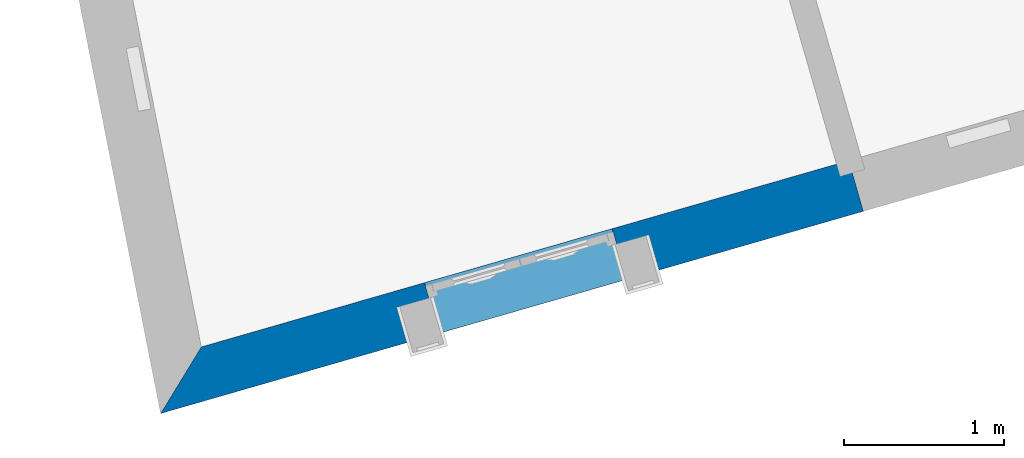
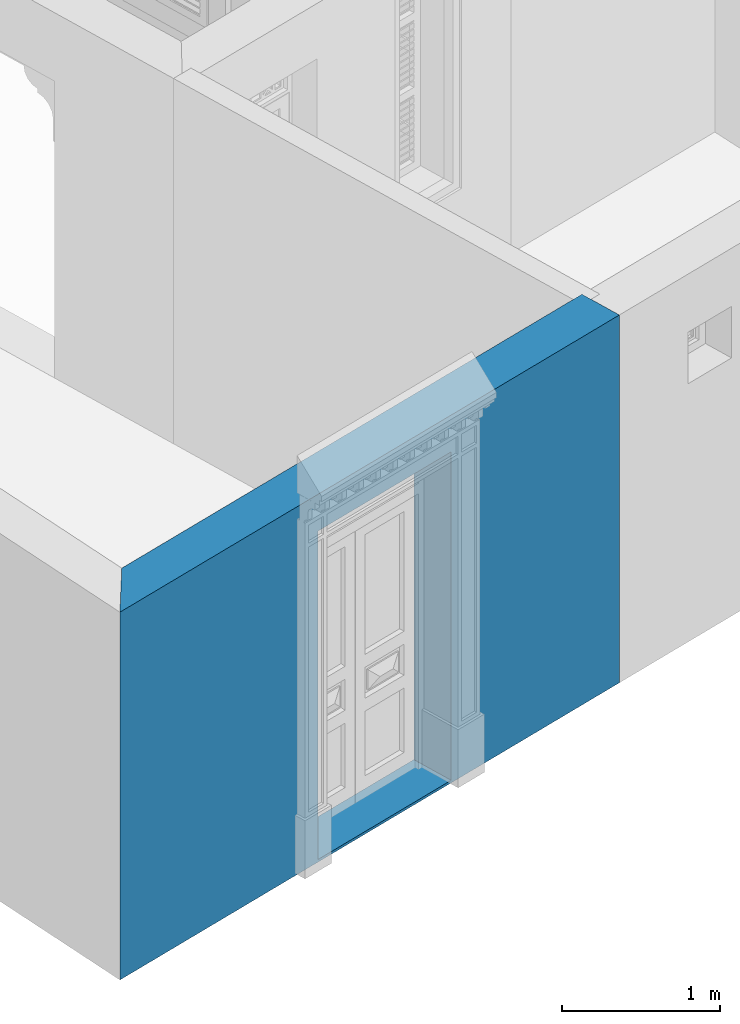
# One storey, part 2 of 16: 1 wall, 1 opening.
"""IFC4 building model written with IfcOpenShell, lengths in metres."""

from ifc_helpers import new_model, si_unit, frame, origin_with_axes, place, context, subcontext, project, spatial, polyline, outline, extrude, material, layer, layer_set, layer_usage, type_object, element, save


model = new_model("IFC4")

# Units and contexts
model_context = context("Model", 3, world=origin_with_axes())
body_context = subcontext(model_context, "Body", "Model", "MODEL_VIEW")
ifc_project = project(units=[si_unit("PLANEANGLEUNIT", "RADIAN"), si_unit("MASSUNIT", "GRAM", prefix="KILO"), si_unit("FORCEUNIT", "NEWTON", prefix="KILO"), si_unit("LENGTHUNIT", "METRE"), si_unit("AREAUNIT", "SQUARE_METRE"), si_unit("VOLUMEUNIT", "CUBIC_METRE")], contexts=[model_context, model_context])

# Site, building, storey
site_placement = place(None, origin_with_axes())
site = spatial("IfcSite", under=ifc_project, at=site_placement, Name="Site plot-9", CompositionType="ELEMENT")
building_placement = place(None, origin_with_axes())
building = spatial("IfcBuilding", under=site, at=building_placement, Name="Building plot-9", CompositionType="ELEMENT")
storey_placement = place(None, origin_with_axes())
storey = spatial("IfcBuildingStorey", under=building, at=storey_placement, Name="plot-9 0", CompositionType="ELEMENT", Elevation=0.0)

# Wall, opening
ifc_material = material(Name="Masonry")
ifc_layer = layer(ifc_material, 0.33, ventilated=False)
ifc_layer_set = layer_set([ifc_layer], Name="exterior_0.08_0.25")
ifc_layer_usage = layer_usage(ifc_layer_set, "AXIS2", "POSITIVE", -0.25)
wall_type = type_object("IfcWallType", Name="exterior_0.08_0.25", PredefinedType="SOLIDWALL", material=ifc_layer_set)
wall_placement = place(storey_placement, frame((-20.223323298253, -6.7850701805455, 0.0), z_axis=(0.0, 0.0, 1.0), x_axis=(0.961007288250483, 0.276523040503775, 0.0)))
wall = element("IfcWall", 1, at=wall_placement, inside=storey, type_object=wall_type, material=ifc_layer_usage, Name="exterior", context=body_context, shape_type="SweptSolid", body=[
    extrude(outline(polyline([(0.0871296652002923, 0.0800000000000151), (-0.272280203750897, -0.249999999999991), (4.29636821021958, -0.25), (4.29636821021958, 0.08), (0.0871296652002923, 0.0800000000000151)])), origin_with_axes(), (0.0, 0.0, 1.0), 2.85),
])
opening_placement = place(wall_placement, frame((1.53818410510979, 0.0, 0.02)))
element("IfcOpeningElement", 2, at=opening_placement, cuts=wall, Name="My Opening", ObjectType="Opening", context=body_context, shape_type="SweptSolid", body=[
    extrude(outline(polyline([(0.0, -0.27), (1.22, -0.270000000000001), (1.22, 1.1), (0.0, 1.1), (0.0, -0.27)])), origin_with_axes(), (0.0, 0.0, 1.0), 2.545),
])

save(model, "model.ifc")
